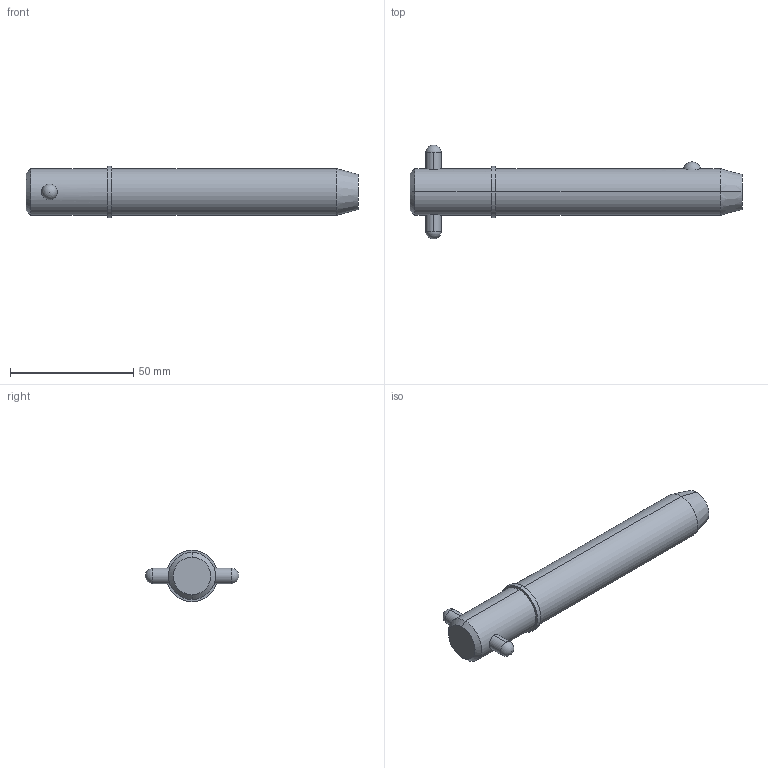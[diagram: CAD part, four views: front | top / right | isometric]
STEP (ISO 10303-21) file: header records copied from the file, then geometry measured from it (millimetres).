
FILE_DESCRIPTION (( 'STEP AP203' ), '1' );
FILE_NAME ('33018.W7530.step', '2024-11-19T17:20:25', ( '' ), ( '' ), 'SwSTEP 2.0', 'SolidWorks 2019', '' );
FILE_SCHEMA (( 'CONFIG_CONTROL_DESIGN' ));
Length unit declared in the file: millimetre
Products named in the file (3): 33018.W7530; Part1_33018.W7530; Part2_33018.W7530
Assembly tree (2 placements, depth 2):
  33018.W7530
    Part1_33018.W7530
    Part2_33018.W7530
Bounding box: 134.93 x 38.1 x 20.95 mm (x, y, z)
Volume: 38504.4 mm3; surface area: 9623.7 mm2
Topology: 2 solids, 2 shells, 22 faces, 47 edges, 30 vertices
Faces by surface type: cylinder 10, sphere 4, cone 4, plane 4
Entity records: 1041 total; most frequent: CARTESIAN_POINT 284, DIRECTION 110, ORIENTED_EDGE 82, AXIS2_PLACEMENT_3D 48, EDGE_CURVE 41, EDGE_LOOP 27, PERSON_AND_ORGANIZATION 26, VERTEX_POINT 26
